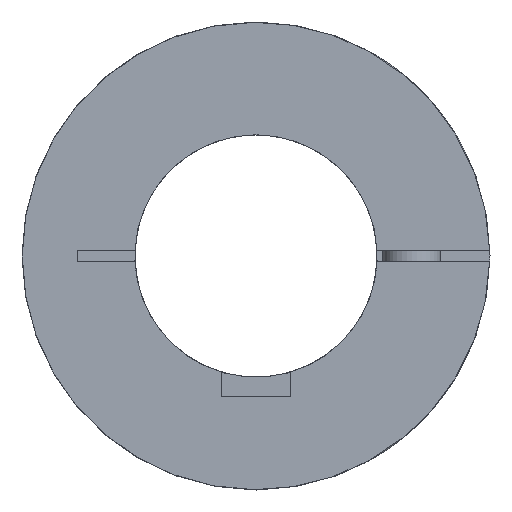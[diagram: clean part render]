
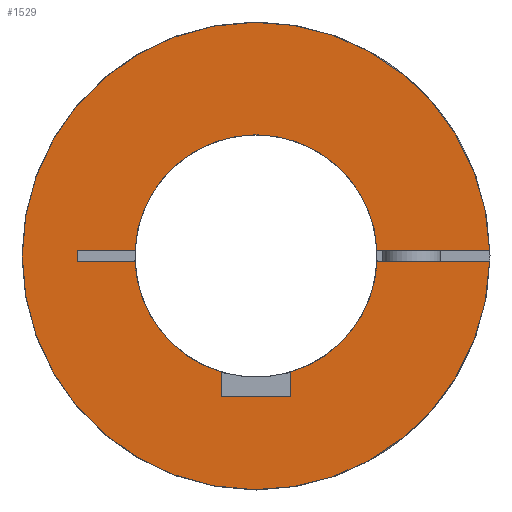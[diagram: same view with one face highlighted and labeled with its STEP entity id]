
A CAD part, left-side view. The second image highlights one B-rep face of the part: STEP entity #1529.
In plain terms, the highlighted planar face has unit normal (-1, 0, 0).
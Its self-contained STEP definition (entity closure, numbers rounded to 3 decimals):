
#41=PLANE('',#1742);
#139=LINE('',#2712,#246);
#142=LINE('',#2718,#249);
#143=LINE('',#2720,#250);
#154=LINE('',#2739,#261);
#159=LINE('',#2749,#266);
#172=LINE('',#2772,#279);
#174=LINE('',#2775,#281);
#193=LINE('',#2816,#300);
#246=VECTOR('',#2079,1.);
#249=VECTOR('',#2084,1.);
#250=VECTOR('',#2087,1.);
#261=VECTOR('',#2106,33.559);
#266=VECTOR('',#2115,24.072);
#279=VECTOR('',#2140,24.072);
#281=VECTOR('',#2144,33.559);
#300=VECTOR('',#2183,2.);
#393=FACE_OUTER_BOUND('',#491,.T.);
#491=EDGE_LOOP('',(#1317,#1318,#1319,#1320,#1321,#1322,#1323,#1324,#1325,
#1326,#1327,#1328));
#626=CIRCLE('',#1689,40.5);
#640=CIRCLE('',#1709,21.);
#643=CIRCLE('',#1713,21.);
#645=CIRCLE('',#1715,21.);
#726=VERTEX_POINT('',#2588);
#727=VERTEX_POINT('',#2590);
#749=VERTEX_POINT('',#2682);
#750=VERTEX_POINT('',#2683);
#755=VERTEX_POINT('',#2694);
#756=VERTEX_POINT('',#2696);
#759=VERTEX_POINT('',#2702);
#760=VERTEX_POINT('',#2704);
#762=VERTEX_POINT('',#2710);
#764=VERTEX_POINT('',#2716);
#771=VERTEX_POINT('',#2747);
#775=VERTEX_POINT('',#2771);
#904=EDGE_CURVE('',#727,#726,#626,.T.);
#930=EDGE_CURVE('',#749,#750,#640,.T.);
#936=EDGE_CURVE('',#756,#755,#643,.T.);
#940=EDGE_CURVE('',#760,#759,#645,.T.);
#944=EDGE_CURVE('',#759,#762,#139,.T.);
#947=EDGE_CURVE('',#762,#764,#142,.T.);
#948=EDGE_CURVE('',#764,#756,#143,.T.);
#959=EDGE_CURVE('',#750,#727,#154,.T.);
#964=EDGE_CURVE('',#771,#755,#159,.T.);
#977=EDGE_CURVE('',#775,#749,#172,.T.);
#979=EDGE_CURVE('',#726,#760,#174,.T.);
#998=EDGE_CURVE('',#775,#771,#193,.T.);
#1317=ORIENTED_EDGE('',*,*,#930,.T.);
#1318=ORIENTED_EDGE('',*,*,#959,.T.);
#1319=ORIENTED_EDGE('',*,*,#904,.T.);
#1320=ORIENTED_EDGE('',*,*,#979,.T.);
#1321=ORIENTED_EDGE('',*,*,#940,.T.);
#1322=ORIENTED_EDGE('',*,*,#944,.T.);
#1323=ORIENTED_EDGE('',*,*,#947,.T.);
#1324=ORIENTED_EDGE('',*,*,#948,.T.);
#1325=ORIENTED_EDGE('',*,*,#936,.T.);
#1326=ORIENTED_EDGE('',*,*,#964,.F.);
#1327=ORIENTED_EDGE('',*,*,#998,.F.);
#1328=ORIENTED_EDGE('',*,*,#977,.T.);
#1529=ADVANCED_FACE('',(#393),#41,.T.);
#1689=AXIS2_PLACEMENT_3D('',#2591,#2005,#2006);
#1709=AXIS2_PLACEMENT_3D('',#2684,#2055,#2056);
#1713=AXIS2_PLACEMENT_3D('',#2697,#2066,#2067);
#1715=AXIS2_PLACEMENT_3D('',#2705,#2072,#2073);
#1742=AXIS2_PLACEMENT_3D('',#2817,#2184,#2185);
#2005=DIRECTION('center_axis',(-1.,0.,0.));
#2006=DIRECTION('ref_axis',(0.,1.,0.));
#2055=DIRECTION('center_axis',(1.,0.,0.));
#2056=DIRECTION('ref_axis',(0.,0.,-1.));
#2066=DIRECTION('center_axis',(1.,0.,0.));
#2067=DIRECTION('ref_axis',(0.,0.,-1.));
#2072=DIRECTION('center_axis',(1.,0.,0.));
#2073=DIRECTION('ref_axis',(0.,0.,-1.));
#2079=DIRECTION('',(0.,0.,-1.));
#2084=DIRECTION('',(0.,1.,0.));
#2087=DIRECTION('',(0.,0.,1.));
#2106=DIRECTION('',(0.,-1.,0.));
#2115=DIRECTION('',(0.,-1.,0.));
#2140=DIRECTION('',(0.,-1.,0.));
#2144=DIRECTION('',(0.,1.,0.));
#2183=DIRECTION('',(0.,0.,-1.));
#2184=DIRECTION('center_axis',(-1.,0.,0.));
#2185=DIRECTION('ref_axis',(0.,-1.,0.));
#2588=CARTESIAN_POINT('',(0.,-40.488,-1.));
#2590=CARTESIAN_POINT('',(0.,-40.488,1.));
#2591=CARTESIAN_POINT('Origin',(0.,0.,0.));
#2682=CARTESIAN_POINT('',(0.,20.976,1.));
#2683=CARTESIAN_POINT('',(0.,-20.976,1.));
#2684=CARTESIAN_POINT('Origin',(0.,0.,0.));
#2694=CARTESIAN_POINT('',(0.,20.976,-1.));
#2696=CARTESIAN_POINT('',(0.,6.,-20.125));
#2697=CARTESIAN_POINT('Origin',(0.,0.,0.));
#2702=CARTESIAN_POINT('',(0.,-6.,-20.125));
#2704=CARTESIAN_POINT('',(0.,-20.976,-1.));
#2705=CARTESIAN_POINT('Origin',(0.,0.,0.));
#2710=CARTESIAN_POINT('',(0.,-6.,-24.3));
#2712=CARTESIAN_POINT('',(0.,-6.,-9.575));
#2716=CARTESIAN_POINT('',(0.,6.,-24.3));
#2718=CARTESIAN_POINT('',(0.,0.,-24.3));
#2720=CARTESIAN_POINT('',(0.,6.,-9.575));
#2739=CARTESIAN_POINT('',(0.,-6.928,1.));
#2747=CARTESIAN_POINT('',(0.,31.,-1.));
#2749=CARTESIAN_POINT('',(0.,31.,-1.));
#2771=CARTESIAN_POINT('',(0.,31.,1.));
#2772=CARTESIAN_POINT('',(0.,31.,1.));
#2775=CARTESIAN_POINT('',(0.,-40.488,-1.));
#2816=CARTESIAN_POINT('',(0.,31.,1.));
#2817=CARTESIAN_POINT('Origin',(0.,0.,-7.));
